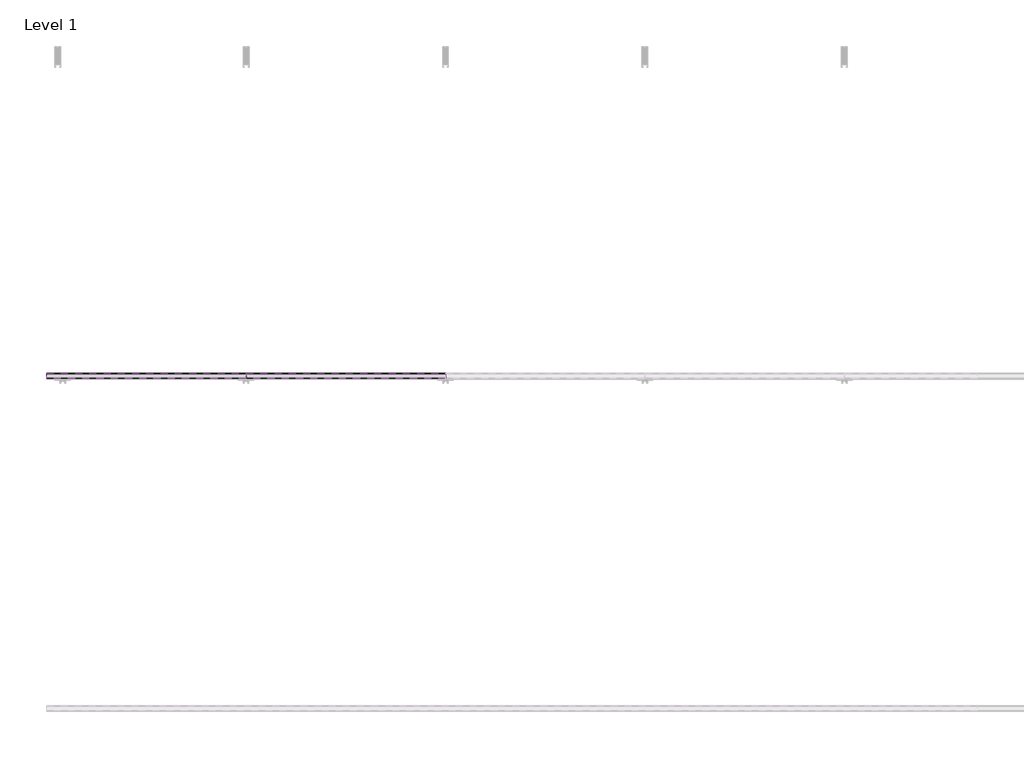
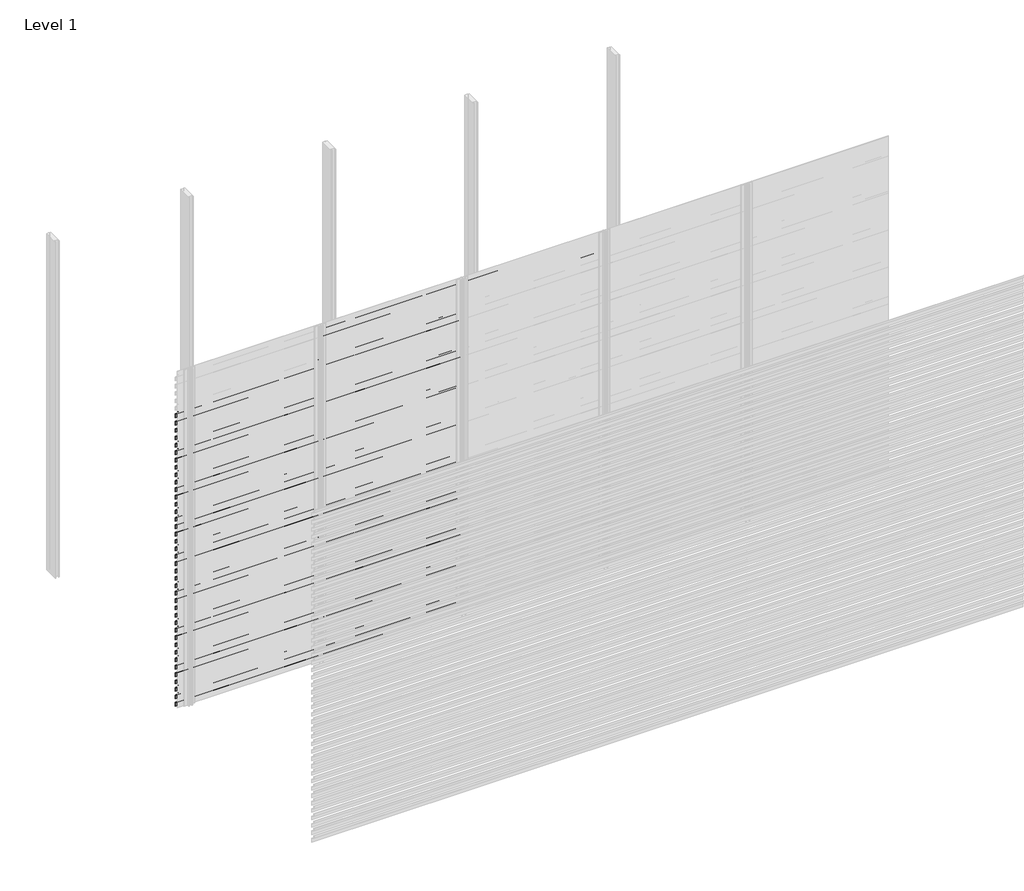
# One storey, part 4 of 33: 88 proxies.
"""IFC4 building model written with IfcOpenShell, lengths in millimetres."""

import ifcopenshell
import ifcopenshell.guid

model = None  # the IFC model being written
_history = None  # IfcOwnerHistory: only IFC2X3 demands one
_inside = {}  # id of a spatial element -> (the spatial element, [elements in it])
_under = {}  # id of a project, library or spatial element -> (it, [spatial elements below it])
_declared = {}  # id of a project -> (the project, [libraries it declares])
_typed = {}  # id of a type object -> (the type object, [elements of that type])
_made_of = {}  # id of a material, layer set ... -> (it, [elements and type objects made of it])


def new_model(schema):
    """Start an empty IFC model of exactly this schema.

    Asked for "IFC4X3", IfcOpenShell would pick the latest addendum, in which some entities
    have other attributes; the version numbers below select the first issue.
    IFC2X3 requires an IfcOwnerHistory on every rooted entity: one is made here for all.
    """
    global model, _history
    if schema == "IFC4X3":
        model = ifcopenshell.file(schema_version=(4, 3, 0, 0))
    else:
        model = ifcopenshell.file(schema=schema)
    _inside.clear()
    _under.clear()
    _declared.clear()
    _typed.clear()
    _made_of.clear()
    _history = None
    if model.schema == "IFC2X3":
        org = make("IfcOrganization", Name="unknown")
        user = make(
            "IfcPersonAndOrganization",
            ThePerson=make("IfcPerson", FamilyName="unknown"),
            TheOrganization=org,
        )
        app = make(
            "IfcApplication",
            ApplicationDeveloper=org,
            Version="unknown",
            ApplicationFullName="unknown",
            ApplicationIdentifier="unknown",
        )
        _history = make(
            "IfcOwnerHistory",
            OwningUser=user,
            OwningApplication=app,
            ChangeAction="ADDED",
            CreationDate=0,
        )
    return model


def make(cls, **values):
    """One entity of the class cls with the attributes given. An attribute that is None is left unset."""
    return model.create_entity(
        cls, **{name: value for name, value in values.items() if value is not None}
    )


def rooted(cls, **values):
    """An entity with a GlobalId (a new one), such as an element, a storey or a relation."""
    return make(cls, GlobalId=ifcopenshell.guid.new(), OwnerHistory=_history, **values)


def si_unit(unit_type, name, prefix=None):
    """IfcSIUnit, for example si_unit("LENGTHUNIT", "METRE", prefix="MILLI")."""
    return make("IfcSIUnit", UnitType=unit_type, Prefix=prefix, Name=name)


def assignment(units):
    """IfcUnitAssignment: the units of a project."""
    return None if units is None else make("IfcUnitAssignment", Units=units)


def point(xyz):
    """IfcCartesianPoint."""
    return None if xyz is None else make("IfcCartesianPoint", Coordinates=xyz)


def direction(xyz):
    """IfcDirection."""
    return None if xyz is None else make("IfcDirection", DirectionRatios=xyz)


def frame(location, z_axis=None, x_axis=None):
    """IfcAxis2Placement3D, a coordinate frame: its origin and axes. An axis left out is left unset."""
    return make(
        "IfcAxis2Placement3D",
        Location=point(location),
        Axis=direction(z_axis),
        RefDirection=direction(x_axis),
    )


def origin():
    """The frame at (0, 0, 0) with its axes left unset."""
    return frame((0.0, 0.0, 0.0))


def place(relative_to, where):
    """IfcLocalPlacement: puts the frame where relative to a parent placement (None: the world)."""
    return make(
        "IfcLocalPlacement", PlacementRelTo=relative_to, RelativePlacement=where
    )


def context(
    kind, dimensions, precision=None, world=None, true_north=None, identifier=None
):
    """IfcGeometricRepresentationContext, for example the 3D "Model" context."""
    return make(
        "IfcGeometricRepresentationContext",
        ContextIdentifier=identifier,
        ContextType=kind,
        CoordinateSpaceDimension=dimensions,
        Precision=precision,
        WorldCoordinateSystem=world,
        TrueNorth=true_north,
    )


def project(units=None, contexts=None):
    """IfcProject with its units and contexts."""
    return rooted(
        "IfcProject",
        Name="project",
        RepresentationContexts=contexts,
        UnitsInContext=assignment(units),
    )


def spatial(cls, under=None, at=None, **own):
    """A site, building, storey or space (cls), placed at a placement, below another one or the project."""
    s = rooted(cls, ObjectPlacement=at, **own)
    if under is not None:
        _under.setdefault(under.id(), (under, []))[1].append(s)
    return s


def polyline(points):
    """IfcPolyline through the points."""
    return make("IfcPolyline", Points=[point(p) for p in points])


def outline(outer, holes=None, kind="AREA"):
    """IfcArbitraryClosedProfileDef: a profile drawn as a closed curve; with holes, ...WithVoids."""
    if holes is None:
        return make("IfcArbitraryClosedProfileDef", ProfileType=kind, OuterCurve=outer)
    return make(
        "IfcArbitraryProfileDefWithVoids",
        ProfileType=kind,
        OuterCurve=outer,
        InnerCurves=holes,
    )


def extrude(swept, where, along, depth):
    """IfcExtrudedAreaSolid: the profile swept, set in the frame where, extruded along a direction by depth."""
    return make(
        "IfcExtrudedAreaSolid",
        SweptArea=swept,
        Position=where,
        ExtrudedDirection=direction(along),
        Depth=depth,
    )


def shape(context_of_items, identifier, shape_type, items):
    """IfcShapeRepresentation: the items that make up one representation, for example the "Body"."""
    return make(
        "IfcShapeRepresentation",
        ContextOfItems=context_of_items,
        RepresentationIdentifier=identifier,
        RepresentationType=shape_type,
        Items=items,
    )


def made_of(thing, what):
    """Note that an element or type object is made of a material, layer set ...; save() writes the relation."""
    if what is not None:
        _made_of.setdefault(what.id(), (what, []))[1].append(thing)
    return thing


def element(
    cls,
    number,
    at=None,
    inside=None,
    cuts=None,
    type_object=None,
    material=None,
    context=None,
    identifier="Body",
    shape_type=None,
    held_by="IfcProductDefinitionShape",
    body=None,
    shapes=None,
    **own,
):
    """One element of the class cls, such as IfcWall. Its Tag is "e" and its number.

    at: its placement. inside: the storey or other place that contains it. cuts: it is an
    opening in that element (IfcRelVoidsElement). A single representation is given by context,
    identifier, shape_type and body (its items); several are given by shapes. held_by: the class
    of the entity that holds the representations. save() writes the other relations.
    """
    e = rooted(cls, Tag="e%d" % number, ObjectPlacement=at, **own)
    if body is not None:
        shapes = [shape(context, identifier, shape_type, body)]
    if shapes is not None:
        e.Representation = make(held_by, Representations=shapes)
    if inside is not None:
        _inside.setdefault(inside.id(), (inside, []))[1].append(e)
    if cuts is not None:
        rooted(
            "IfcRelVoidsElement", RelatingBuildingElement=cuts, RelatedOpeningElement=e
        )
    if type_object is not None:
        _typed.setdefault(type_object.id(), (type_object, []))[1].append(e)
    return made_of(e, material)


def aggregate(whole, parts):
    """IfcRelAggregates: a whole, such as a stair, and the parts it consists of."""
    return rooted("IfcRelAggregates", RelatingObject=whole, RelatedObjects=parts)


def save(model, path):
    """Write the relations noted so far, then the file.

    IfcRelAggregates (storeys below a building ...), IfcRelContainedInSpatialStructure (elements
    in a storey), IfcRelDefinesByType, IfcRelAssociatesMaterial and IfcRelDeclares: one each for
    every whole, place, type object, material and project.
    """
    for whole, parts in _under.values():
        aggregate(whole, parts)
    for where, things in _inside.values():
        rooted(
            "IfcRelContainedInSpatialStructure",
            RelatedElements=things,
            RelatingStructure=where,
        )
    for kind, things in _typed.values():
        rooted("IfcRelDefinesByType", RelatedObjects=things, RelatingType=kind)
    for what, things in _made_of.values():
        rooted("IfcRelAssociatesMaterial", RelatedObjects=things, RelatingMaterial=what)
    for by, libraries in _declared.values():
        rooted("IfcRelDeclares", RelatingContext=by, RelatedDefinitions=libraries)
    model.write(path)


model = new_model("IFC4")

# Units and contexts
model_context = context("Model", 3, world=origin())
ifc_project = project(units=[si_unit("LENGTHUNIT", "METRE", prefix="MILLI")], contexts=[model_context])

# Site, building, storey
site = spatial("IfcSite", under=ifc_project)
building = spatial("IfcBuilding", under=site)
storey = spatial("IfcBuildingStorey", under=building, Name="Level 1", Elevation=0.0)

# Proxies
placement = place(None, origin())
element("IfcBuildingElementProxy", 1, Name="Wall Sweeps", at=placement, inside=storey, context=model_context, shape_type="SweptSolid", body=[
    extrude(outline(polyline([(-53967.0, 2600.0), (-53967.0, 2567.0), (-53968.25, 2567.7216933), (-53968.25, 2599.2872415), (-53998.0, 2620.0588647), (-53998.0, 2640.0), (-53996.75, 2640.0), (-53996.75, 2620.7716232), (-53967.0, 2600.0)])), frame((0.0, 0.0, 0.0), z_axis=(1.0, 0.0, 0.0), x_axis=(0.0, 1.0, 0.0)), (0.0, 0.0, 1.0), 1200.0),
])
element("IfcBuildingElementProxy", 2, Name="Wall Sweeps", at=placement, inside=storey, context=model_context, shape_type="SweptSolid", body=[
    extrude(outline(polyline([(-53967.0, 2534.0), (-53967.0, 2501.0), (-53968.25, 2501.7216933), (-53968.25, 2533.2872415), (-53998.0, 2554.0588647), (-53998.0, 2574.0), (-53996.75, 2574.0), (-53996.75, 2554.7716232), (-53967.0, 2534.0)])), frame((0.0, 0.0, 0.0), z_axis=(1.0, 0.0, 0.0), x_axis=(0.0, 1.0, 0.0)), (0.0, 0.0, 1.0), 1200.0),
])
element("IfcBuildingElementProxy", 3, Name="Wall Sweeps", at=placement, inside=storey, context=model_context, shape_type="SweptSolid", body=[
    extrude(outline(polyline([(-53967.0, 2468.0), (-53967.0, 2435.0), (-53968.25, 2435.7216933), (-53968.25, 2467.2872415), (-53998.0, 2488.0588647), (-53998.0, 2508.0), (-53996.75, 2508.0), (-53996.75, 2488.7716232), (-53967.0, 2468.0)])), frame((0.0, 0.0, 0.0), z_axis=(1.0, 0.0, 0.0), x_axis=(0.0, 1.0, 0.0)), (0.0, 0.0, 1.0), 1200.0),
])
element("IfcBuildingElementProxy", 4, Name="Wall Sweeps", at=placement, inside=storey, context=model_context, shape_type="SweptSolid", body=[
    extrude(outline(polyline([(-53967.0, 2402.0), (-53967.0, 2369.0), (-53968.25, 2369.7216933), (-53968.25, 2401.2872415), (-53998.0, 2422.0588647), (-53998.0, 2442.0), (-53996.75, 2442.0), (-53996.75, 2422.7716232), (-53967.0, 2402.0)])), frame((0.0, 0.0, 0.0), z_axis=(1.0, 0.0, 0.0), x_axis=(0.0, 1.0, 0.0)), (0.0, 0.0, 1.0), 1200.0),
])
element("IfcBuildingElementProxy", 5, Name="Wall Sweeps", at=placement, inside=storey, context=model_context, shape_type="SweptSolid", body=[
    extrude(outline(polyline([(-53967.0, 2336.0), (-53967.0, 2303.0), (-53968.25, 2303.7216933), (-53968.25, 2335.2872415), (-53998.0, 2356.0588647), (-53998.0, 2376.0), (-53996.75, 2376.0), (-53996.75, 2356.7716232), (-53967.0, 2336.0)])), frame((0.0, 0.0, 0.0), z_axis=(1.0, 0.0, 0.0), x_axis=(0.0, 1.0, 0.0)), (0.0, 0.0, 1.0), 1200.0),
])
element("IfcBuildingElementProxy", 6, Name="Wall Sweeps", at=placement, inside=storey, context=model_context, shape_type="SweptSolid", body=[
    extrude(outline(polyline([(-53967.0, 2270.0), (-53967.0, 2237.0), (-53968.25, 2237.7216933), (-53968.25, 2269.2872415), (-53998.0, 2290.0588647), (-53998.0, 2310.0), (-53996.75, 2310.0), (-53996.75, 2290.7716232), (-53967.0, 2270.0)])), frame((0.0, 0.0, 0.0), z_axis=(1.0, 0.0, 0.0), x_axis=(0.0, 1.0, 0.0)), (0.0, 0.0, 1.0), 1200.0),
])
element("IfcBuildingElementProxy", 7, Name="Wall Sweeps", at=placement, inside=storey, context=model_context, shape_type="SweptSolid", body=[
    extrude(outline(polyline([(-53967.0, 2204.0), (-53967.0, 2171.0), (-53968.25, 2171.7216933), (-53968.25, 2203.2872415), (-53998.0, 2224.0588647), (-53998.0, 2244.0), (-53996.75, 2244.0), (-53996.75, 2224.7716232), (-53967.0, 2204.0)])), frame((0.0, 0.0, 0.0), z_axis=(1.0, 0.0, 0.0), x_axis=(0.0, 1.0, 0.0)), (0.0, 0.0, 1.0), 1200.0),
])
element("IfcBuildingElementProxy", 8, Name="Wall Sweeps", at=placement, inside=storey, context=model_context, shape_type="SweptSolid", body=[
    extrude(outline(polyline([(-53967.0, 2138.0), (-53967.0, 2105.0), (-53968.25, 2105.7216933), (-53968.25, 2137.2872415), (-53998.0, 2158.0588647), (-53998.0, 2178.0), (-53996.75, 2178.0), (-53996.75, 2158.7716232), (-53967.0, 2138.0)])), frame((0.0, 0.0, 0.0), z_axis=(1.0, 0.0, 0.0), x_axis=(0.0, 1.0, 0.0)), (0.0, 0.0, 1.0), 1200.0),
])
element("IfcBuildingElementProxy", 9, Name="Wall Sweeps", at=placement, inside=storey, context=model_context, shape_type="SweptSolid", body=[
    extrude(outline(polyline([(-53967.0, 2072.0), (-53967.0, 2039.0), (-53968.25, 2039.7216933), (-53968.25, 2071.2872415), (-53998.0, 2092.0588647), (-53998.0, 2112.0), (-53996.75, 2112.0), (-53996.75, 2092.7716232), (-53967.0, 2072.0)])), frame((0.0, 0.0, 0.0), z_axis=(1.0, 0.0, 0.0), x_axis=(0.0, 1.0, 0.0)), (0.0, 0.0, 1.0), 1200.0),
])
element("IfcBuildingElementProxy", 10, Name="Wall Sweeps", at=placement, inside=storey, context=model_context, shape_type="SweptSolid", body=[
    extrude(outline(polyline([(-53967.0, 2006.0), (-53967.0, 1973.0), (-53968.25, 1973.7216933), (-53968.25, 2005.2872415), (-53998.0, 2026.0588647), (-53998.0, 2046.0), (-53996.75, 2046.0), (-53996.75, 2026.7716232), (-53967.0, 2006.0)])), frame((0.0, 0.0, 0.0), z_axis=(1.0, 0.0, 0.0), x_axis=(0.0, 1.0, 0.0)), (0.0, 0.0, 1.0), 1200.0),
])
element("IfcBuildingElementProxy", 11, Name="Wall Sweeps", at=placement, inside=storey, context=model_context, shape_type="SweptSolid", body=[
    extrude(outline(polyline([(-53967.0, 1940.0), (-53967.0, 1907.0), (-53968.25, 1907.7216933), (-53968.25, 1939.2872415), (-53998.0, 1960.0588647), (-53998.0, 1980.0), (-53996.75, 1980.0), (-53996.75, 1960.7716232), (-53967.0, 1940.0)])), frame((0.0, 0.0, 0.0), z_axis=(1.0, 0.0, 0.0), x_axis=(0.0, 1.0, 0.0)), (0.0, 0.0, 1.0), 1200.0),
])
element("IfcBuildingElementProxy", 12, Name="Wall Sweeps", at=placement, inside=storey, context=model_context, shape_type="SweptSolid", body=[
    extrude(outline(polyline([(-53967.0, 1874.0), (-53967.0, 1841.0), (-53968.25, 1841.7216933), (-53968.25, 1873.2872415), (-53998.0, 1894.0588647), (-53998.0, 1914.0), (-53996.75, 1914.0), (-53996.75, 1894.7716232), (-53967.0, 1874.0)])), frame((0.0, 0.0, 0.0), z_axis=(1.0, 0.0, 0.0), x_axis=(0.0, 1.0, 0.0)), (0.0, 0.0, 1.0), 1200.0),
])
element("IfcBuildingElementProxy", 13, Name="Wall Sweeps", at=placement, inside=storey, context=model_context, shape_type="SweptSolid", body=[
    extrude(outline(polyline([(-53967.0, 1808.0), (-53967.0, 1775.0), (-53968.25, 1775.7216933), (-53968.25, 1807.2872415), (-53998.0, 1828.0588647), (-53998.0, 1848.0), (-53996.75, 1848.0), (-53996.75, 1828.7716232), (-53967.0, 1808.0)])), frame((0.0, 0.0, 0.0), z_axis=(1.0, 0.0, 0.0), x_axis=(0.0, 1.0, 0.0)), (0.0, 0.0, 1.0), 1200.0),
])
element("IfcBuildingElementProxy", 14, Name="Wall Sweeps", at=placement, inside=storey, context=model_context, shape_type="SweptSolid", body=[
    extrude(outline(polyline([(-53967.0, 1742.0), (-53967.0, 1709.0), (-53968.25, 1709.7216933), (-53968.25, 1741.2872415), (-53998.0, 1762.0588647), (-53998.0, 1782.0), (-53996.75, 1782.0), (-53996.75, 1762.7716232), (-53967.0, 1742.0)])), frame((0.0, 0.0, 0.0), z_axis=(1.0, 0.0, 0.0), x_axis=(0.0, 1.0, 0.0)), (0.0, 0.0, 1.0), 1200.0),
])
element("IfcBuildingElementProxy", 15, Name="Wall Sweeps", at=placement, inside=storey, context=model_context, shape_type="SweptSolid", body=[
    extrude(outline(polyline([(-53967.0, 1676.0), (-53967.0, 1643.0), (-53968.25, 1643.7216933), (-53968.25, 1675.2872415), (-53998.0, 1696.0588647), (-53998.0, 1716.0), (-53996.75, 1716.0), (-53996.75, 1696.7716232), (-53967.0, 1676.0)])), frame((0.0, 0.0, 0.0), z_axis=(1.0, 0.0, 0.0), x_axis=(0.0, 1.0, 0.0)), (0.0, 0.0, 1.0), 1200.0),
])
element("IfcBuildingElementProxy", 16, Name="Wall Sweeps", at=placement, inside=storey, context=model_context, shape_type="SweptSolid", body=[
    extrude(outline(polyline([(-53967.0, 1610.0), (-53967.0, 1577.0), (-53968.25, 1577.7216933), (-53968.25, 1609.2872415), (-53998.0, 1630.0588647), (-53998.0, 1650.0), (-53996.75, 1650.0), (-53996.75, 1630.7716232), (-53967.0, 1610.0)])), frame((0.0, 0.0, 0.0), z_axis=(1.0, 0.0, 0.0), x_axis=(0.0, 1.0, 0.0)), (0.0, 0.0, 1.0), 1200.0),
])
element("IfcBuildingElementProxy", 17, Name="Wall Sweeps", at=placement, inside=storey, context=model_context, shape_type="SweptSolid", body=[
    extrude(outline(polyline([(-53967.0, 1544.0), (-53967.0, 1511.0), (-53968.25, 1511.7216933), (-53968.25, 1543.2872415), (-53998.0, 1564.0588647), (-53998.0, 1584.0), (-53996.75, 1584.0), (-53996.75, 1564.7716232), (-53967.0, 1544.0)])), frame((0.0, 0.0, 0.0), z_axis=(1.0, 0.0, 0.0), x_axis=(0.0, 1.0, 0.0)), (0.0, 0.0, 1.0), 1200.0),
])
element("IfcBuildingElementProxy", 18, Name="Wall Sweeps", at=placement, inside=storey, context=model_context, shape_type="SweptSolid", body=[
    extrude(outline(polyline([(-53967.0, 1478.0), (-53967.0, 1445.0), (-53968.25, 1445.7216933), (-53968.25, 1477.2872415), (-53998.0, 1498.0588647), (-53998.0, 1518.0), (-53996.75, 1518.0), (-53996.75, 1498.7716232), (-53967.0, 1478.0)])), frame((0.0, 0.0, 0.0), z_axis=(1.0, 0.0, 0.0), x_axis=(0.0, 1.0, 0.0)), (0.0, 0.0, 1.0), 1200.0),
])
element("IfcBuildingElementProxy", 19, Name="Wall Sweeps", at=placement, inside=storey, context=model_context, shape_type="SweptSolid", body=[
    extrude(outline(polyline([(-53967.0, 1412.0), (-53967.0, 1379.0), (-53968.25, 1379.7216933), (-53968.25, 1411.2872415), (-53998.0, 1432.0588647), (-53998.0, 1452.0), (-53996.75, 1452.0), (-53996.75, 1432.7716232), (-53967.0, 1412.0)])), frame((0.0, 0.0, 0.0), z_axis=(1.0, 0.0, 0.0), x_axis=(0.0, 1.0, 0.0)), (0.0, 0.0, 1.0), 1200.0),
])
element("IfcBuildingElementProxy", 20, Name="Wall Sweeps", at=placement, inside=storey, context=model_context, shape_type="SweptSolid", body=[
    extrude(outline(polyline([(-53967.0, 1346.0), (-53967.0, 1313.0), (-53968.25, 1313.7216933), (-53968.25, 1345.2872415), (-53998.0, 1366.0588647), (-53998.0, 1386.0), (-53996.75, 1386.0), (-53996.75, 1366.7716232), (-53967.0, 1346.0)])), frame((0.0, 0.0, 0.0), z_axis=(1.0, 0.0, 0.0), x_axis=(0.0, 1.0, 0.0)), (0.0, 0.0, 1.0), 1200.0),
])
element("IfcBuildingElementProxy", 21, Name="Wall Sweeps", at=placement, inside=storey, context=model_context, shape_type="SweptSolid", body=[
    extrude(outline(polyline([(-53967.0, 1280.0), (-53967.0, 1247.0), (-53968.25, 1247.7216933), (-53968.25, 1279.2872415), (-53998.0, 1300.0588647), (-53998.0, 1320.0), (-53996.75, 1320.0), (-53996.75, 1300.7716232), (-53967.0, 1280.0)])), frame((0.0, 0.0, 0.0), z_axis=(1.0, 0.0, 0.0), x_axis=(0.0, 1.0, 0.0)), (0.0, 0.0, 1.0), 1200.0),
])
element("IfcBuildingElementProxy", 22, Name="Wall Sweeps", at=placement, inside=storey, context=model_context, shape_type="SweptSolid", body=[
    extrude(outline(polyline([(-53967.0, 1214.0), (-53967.0, 1181.0), (-53968.25, 1181.7216933), (-53968.25, 1213.2872415), (-53998.0, 1234.0588647), (-53998.0, 1254.0), (-53996.75, 1254.0), (-53996.75, 1234.7716232), (-53967.0, 1214.0)])), frame((0.0, 0.0, 0.0), z_axis=(1.0, 0.0, 0.0), x_axis=(0.0, 1.0, 0.0)), (0.0, 0.0, 1.0), 1200.0),
])
element("IfcBuildingElementProxy", 23, Name="Wall Sweeps", at=placement, inside=storey, context=model_context, shape_type="SweptSolid", body=[
    extrude(outline(polyline([(-53967.0, 1148.0), (-53967.0, 1115.0), (-53968.25, 1115.7216933), (-53968.25, 1147.2872415), (-53998.0, 1168.0588647), (-53998.0, 1188.0), (-53996.75, 1188.0), (-53996.75, 1168.7716232), (-53967.0, 1148.0)])), frame((0.0, 0.0, 0.0), z_axis=(1.0, 0.0, 0.0), x_axis=(0.0, 1.0, 0.0)), (0.0, 0.0, 1.0), 1200.0),
])
element("IfcBuildingElementProxy", 24, Name="Wall Sweeps", at=placement, inside=storey, context=model_context, shape_type="SweptSolid", body=[
    extrude(outline(polyline([(-53967.0, 1082.0), (-53967.0, 1049.0), (-53968.25, 1049.7216933), (-53968.25, 1081.2872415), (-53998.0, 1102.0588647), (-53998.0, 1122.0), (-53996.75, 1122.0), (-53996.75, 1102.7716232), (-53967.0, 1082.0)])), frame((0.0, 0.0, 0.0), z_axis=(1.0, 0.0, 0.0), x_axis=(0.0, 1.0, 0.0)), (0.0, 0.0, 1.0), 1200.0),
])
element("IfcBuildingElementProxy", 25, Name="Wall Sweeps", at=placement, inside=storey, context=model_context, shape_type="SweptSolid", body=[
    extrude(outline(polyline([(-53967.0, 1016.0), (-53967.0, 983.0), (-53968.25, 983.7216933), (-53968.25, 1015.2872415), (-53998.0, 1036.0588647), (-53998.0, 1056.0), (-53996.75, 1056.0), (-53996.75, 1036.7716232), (-53967.0, 1016.0)])), frame((0.0, 0.0, 0.0), z_axis=(1.0, 0.0, 0.0), x_axis=(0.0, 1.0, 0.0)), (0.0, 0.0, 1.0), 1200.0),
])
element("IfcBuildingElementProxy", 26, Name="Wall Sweeps", at=placement, inside=storey, context=model_context, shape_type="SweptSolid", body=[
    extrude(outline(polyline([(-53967.0, 950.0), (-53967.0, 917.0), (-53968.25, 917.7216933), (-53968.25, 949.2872415), (-53998.0, 970.0588647), (-53998.0, 990.0), (-53996.75, 990.0), (-53996.75, 970.7716232), (-53967.0, 950.0)])), frame((0.0, 0.0, 0.0), z_axis=(1.0, 0.0, 0.0), x_axis=(0.0, 1.0, 0.0)), (0.0, 0.0, 1.0), 1200.0),
])
element("IfcBuildingElementProxy", 27, Name="Wall Sweeps", at=placement, inside=storey, context=model_context, shape_type="SweptSolid", body=[
    extrude(outline(polyline([(-53967.0, 884.0), (-53967.0, 851.0), (-53968.25, 851.7216933), (-53968.25, 883.2872415), (-53998.0, 904.0588647), (-53998.0, 924.0), (-53996.75, 924.0), (-53996.75, 904.7716232), (-53967.0, 884.0)])), frame((0.0, 0.0, 0.0), z_axis=(1.0, 0.0, 0.0), x_axis=(0.0, 1.0, 0.0)), (0.0, 0.0, 1.0), 1200.0),
])
element("IfcBuildingElementProxy", 28, Name="Wall Sweeps", at=placement, inside=storey, context=model_context, shape_type="SweptSolid", body=[
    extrude(outline(polyline([(-53967.0, 818.0), (-53967.0, 785.0), (-53968.25, 785.7216933), (-53968.25, 817.2872415), (-53998.0, 838.0588647), (-53998.0, 858.0), (-53996.75, 858.0), (-53996.75, 838.7716232), (-53967.0, 818.0)])), frame((0.0, 0.0, 0.0), z_axis=(1.0, 0.0, 0.0), x_axis=(0.0, 1.0, 0.0)), (0.0, 0.0, 1.0), 1200.0),
])
element("IfcBuildingElementProxy", 29, Name="Wall Sweeps", at=placement, inside=storey, context=model_context, shape_type="SweptSolid", body=[
    extrude(outline(polyline([(-53967.0, 752.0), (-53967.0, 719.0), (-53968.25, 719.7216933), (-53968.25, 751.2872415), (-53998.0, 772.0588647), (-53998.0, 792.0), (-53996.75, 792.0), (-53996.75, 772.7716232), (-53967.0, 752.0)])), frame((0.0, 0.0, 0.0), z_axis=(1.0, 0.0, 0.0), x_axis=(0.0, 1.0, 0.0)), (0.0, 0.0, 1.0), 1200.0),
])
element("IfcBuildingElementProxy", 30, Name="Wall Sweeps", at=placement, inside=storey, context=model_context, shape_type="SweptSolid", body=[
    extrude(outline(polyline([(-53967.0, 686.0), (-53967.0, 653.0), (-53968.25, 653.7216933), (-53968.25, 685.2872415), (-53998.0, 706.0588647), (-53998.0, 726.0), (-53996.75, 726.0), (-53996.75, 706.7716232), (-53967.0, 686.0)])), frame((0.0, 0.0, 0.0), z_axis=(1.0, 0.0, 0.0), x_axis=(0.0, 1.0, 0.0)), (0.0, 0.0, 1.0), 1200.0),
])
element("IfcBuildingElementProxy", 31, Name="Wall Sweeps", at=placement, inside=storey, context=model_context, shape_type="SweptSolid", body=[
    extrude(outline(polyline([(-53967.0, 620.0), (-53967.0, 587.0), (-53968.25, 587.7216933), (-53968.25, 619.2872415), (-53998.0, 640.0588647), (-53998.0, 660.0), (-53996.75, 660.0), (-53996.75, 640.7716232), (-53967.0, 620.0)])), frame((0.0, 0.0, 0.0), z_axis=(1.0, 0.0, 0.0), x_axis=(0.0, 1.0, 0.0)), (0.0, 0.0, 1.0), 1200.0),
])
element("IfcBuildingElementProxy", 32, Name="Wall Sweeps", at=placement, inside=storey, context=model_context, shape_type="SweptSolid", body=[
    extrude(outline(polyline([(-53967.0, 554.0), (-53967.0, 521.0), (-53968.25, 521.7216933), (-53968.25, 553.2872415), (-53998.0, 574.0588647), (-53998.0, 594.0), (-53996.75, 594.0), (-53996.75, 574.7716232), (-53967.0, 554.0)])), frame((0.0, 0.0, 0.0), z_axis=(1.0, 0.0, 0.0), x_axis=(0.0, 1.0, 0.0)), (0.0, 0.0, 1.0), 1200.0),
])
element("IfcBuildingElementProxy", 33, Name="Wall Sweeps", at=placement, inside=storey, context=model_context, shape_type="SweptSolid", body=[
    extrude(outline(polyline([(-53967.0, 488.0), (-53967.0, 455.0), (-53968.25, 455.7216933), (-53968.25, 487.2872415), (-53998.0, 508.0588647), (-53998.0, 528.0), (-53996.75, 528.0), (-53996.75, 508.7716232), (-53967.0, 488.0)])), frame((0.0, 0.0, 0.0), z_axis=(1.0, 0.0, 0.0), x_axis=(0.0, 1.0, 0.0)), (0.0, 0.0, 1.0), 1200.0),
])
element("IfcBuildingElementProxy", 34, Name="Wall Sweeps", at=placement, inside=storey, context=model_context, shape_type="SweptSolid", body=[
    extrude(outline(polyline([(-53967.0, 422.0), (-53967.0, 389.0), (-53968.25, 389.7216933), (-53968.25, 421.2872415), (-53998.0, 442.0588647), (-53998.0, 462.0), (-53996.75, 462.0), (-53996.75, 442.7716232), (-53967.0, 422.0)])), frame((0.0, 0.0, 0.0), z_axis=(1.0, 0.0, 0.0), x_axis=(0.0, 1.0, 0.0)), (0.0, 0.0, 1.0), 1200.0),
])
element("IfcBuildingElementProxy", 35, Name="Wall Sweeps", at=placement, inside=storey, context=model_context, shape_type="SweptSolid", body=[
    extrude(outline(polyline([(-53967.0, 356.0), (-53967.0, 323.0), (-53968.25, 323.7216933), (-53968.25, 355.2872415), (-53998.0, 376.0588647), (-53998.0, 396.0), (-53996.75, 396.0), (-53996.75, 376.7716232), (-53967.0, 356.0)])), frame((0.0, 0.0, 0.0), z_axis=(1.0, 0.0, 0.0), x_axis=(0.0, 1.0, 0.0)), (0.0, 0.0, 1.0), 1200.0),
])
element("IfcBuildingElementProxy", 36, Name="Wall Sweeps", at=placement, inside=storey, context=model_context, shape_type="SweptSolid", body=[
    extrude(outline(polyline([(-53967.0, 290.0), (-53967.0, 257.0), (-53968.25, 257.7216933), (-53968.25, 289.2872415), (-53998.0, 310.0588647), (-53998.0, 330.0), (-53996.75, 330.0), (-53996.75, 310.7716232), (-53967.0, 290.0)])), frame((0.0, 0.0, 0.0), z_axis=(1.0, 0.0, 0.0), x_axis=(0.0, 1.0, 0.0)), (0.0, 0.0, 1.0), 1200.0),
])
element("IfcBuildingElementProxy", 37, Name="Wall Sweeps", at=placement, inside=storey, context=model_context, shape_type="SweptSolid", body=[
    extrude(outline(polyline([(-53967.0, 224.0), (-53967.0, 191.0), (-53968.25, 191.7216933), (-53968.25, 223.2872415), (-53998.0, 244.0588647), (-53998.0, 264.0), (-53996.75, 264.0), (-53996.75, 244.7716232), (-53967.0, 224.0)])), frame((0.0, 0.0, 0.0), z_axis=(1.0, 0.0, 0.0), x_axis=(0.0, 1.0, 0.0)), (0.0, 0.0, 1.0), 1200.0),
])
element("IfcBuildingElementProxy", 38, Name="Wall Sweeps", at=placement, inside=storey, context=model_context, shape_type="SweptSolid", body=[
    extrude(outline(polyline([(-53967.0, 158.0), (-53967.0, 125.0), (-53968.25, 125.7216933), (-53968.25, 157.2872415), (-53998.0, 178.0588647), (-53998.0, 198.0), (-53996.75, 198.0), (-53996.75, 178.7716232), (-53967.0, 158.0)])), frame((0.0, 0.0, 0.0), z_axis=(1.0, 0.0, 0.0), x_axis=(0.0, 1.0, 0.0)), (0.0, 0.0, 1.0), 1200.0),
])
element("IfcBuildingElementProxy", 39, Name="Wall Sweeps", at=placement, inside=storey, context=model_context, shape_type="SweptSolid", body=[
    extrude(outline(polyline([(-53967.0, 92.0), (-53967.0, 59.0), (-53968.25, 59.7216933), (-53968.25, 91.2872415), (-53998.0, 112.0588647), (-53998.0, 132.0), (-53996.75, 132.0), (-53996.75, 112.7716232), (-53967.0, 92.0)])), frame((0.0, 0.0, 0.0), z_axis=(1.0, 0.0, 0.0), x_axis=(0.0, 1.0, 0.0)), (0.0, 0.0, 1.0), 1200.0),
])
element("IfcBuildingElementProxy", 40, Name="Wall Sweeps", at=placement, inside=storey, context=model_context, shape_type="SweptSolid", body=[
    extrude(outline(polyline([(-53967.0, 26.0), (-53967.0, -7.0), (-53968.25, -6.2783067), (-53968.25, 25.2872415), (-53998.0, 46.0588647), (-53998.0, 66.0), (-53996.75, 66.0), (-53996.75, 46.7716232), (-53967.0, 26.0)])), frame((0.0, 0.0, 0.0), z_axis=(1.0, 0.0, 0.0), x_axis=(0.0, 1.0, 0.0)), (0.0, 0.0, 1.0), 1200.0),
])
element("IfcBuildingElementProxy", 41, Name="Wall Sweeps", at=placement, inside=storey, context=model_context, shape_type="SweptSolid", body=[
    extrude(outline(polyline([(-53967.0, 2930.0), (-53967.0, 2897.0), (-53968.25, 2897.7216933), (-53968.25, 2929.2872415), (-53998.0, 2950.0588647), (-53998.0, 2970.0), (-53996.75, 2970.0), (-53996.75, 2950.7716232), (-53967.0, 2930.0)])), frame((1200.0, 0.0, 0.0), z_axis=(1.0, 0.0, 0.0), x_axis=(0.0, 1.0, 0.0)), (0.0, 0.0, 1.0), 1200.0),
])
element("IfcBuildingElementProxy", 42, Name="Wall Sweeps", at=placement, inside=storey, context=model_context, shape_type="SweptSolid", body=[
    extrude(outline(polyline([(-53967.0, 2864.0), (-53967.0, 2831.0), (-53968.25, 2831.7216933), (-53968.25, 2863.2872415), (-53998.0, 2884.0588647), (-53998.0, 2904.0), (-53996.75, 2904.0), (-53996.75, 2884.7716232), (-53967.0, 2864.0)])), frame((1200.0, 0.0, 0.0), z_axis=(1.0, 0.0, 0.0), x_axis=(0.0, 1.0, 0.0)), (0.0, 0.0, 1.0), 1200.0),
])
element("IfcBuildingElementProxy", 43, Name="Wall Sweeps", at=placement, inside=storey, context=model_context, shape_type="SweptSolid", body=[
    extrude(outline(polyline([(-53967.0, 2798.0), (-53967.0, 2765.0), (-53968.25, 2765.7216933), (-53968.25, 2797.2872415), (-53998.0, 2818.0588647), (-53998.0, 2838.0), (-53996.75, 2838.0), (-53996.75, 2818.7716232), (-53967.0, 2798.0)])), frame((1200.0, 0.0, 0.0), z_axis=(1.0, 0.0, 0.0), x_axis=(0.0, 1.0, 0.0)), (0.0, 0.0, 1.0), 1200.0),
])
element("IfcBuildingElementProxy", 44, Name="Wall Sweeps", at=placement, inside=storey, context=model_context, shape_type="SweptSolid", body=[
    extrude(outline(polyline([(-53967.0, 2732.0), (-53967.0, 2699.0), (-53968.25, 2699.7216933), (-53968.25, 2731.2872415), (-53998.0, 2752.0588647), (-53998.0, 2772.0), (-53996.75, 2772.0), (-53996.75, 2752.7716232), (-53967.0, 2732.0)])), frame((1200.0, 0.0, 0.0), z_axis=(1.0, 0.0, 0.0), x_axis=(0.0, 1.0, 0.0)), (0.0, 0.0, 1.0), 1200.0),
])
element("IfcBuildingElementProxy", 45, Name="Wall Sweeps", at=placement, inside=storey, context=model_context, shape_type="SweptSolid", body=[
    extrude(outline(polyline([(-53967.0, 2666.0), (-53967.0, 2633.0), (-53968.25, 2633.7216933), (-53968.25, 2665.2872415), (-53998.0, 2686.0588647), (-53998.0, 2706.0), (-53996.75, 2706.0), (-53996.75, 2686.7716232), (-53967.0, 2666.0)])), frame((1200.0, 0.0, 0.0), z_axis=(1.0, 0.0, 0.0), x_axis=(0.0, 1.0, 0.0)), (0.0, 0.0, 1.0), 1200.0),
])
element("IfcBuildingElementProxy", 46, Name="Wall Sweeps", at=placement, inside=storey, context=model_context, shape_type="SweptSolid", body=[
    extrude(outline(polyline([(-53967.0, 2600.0), (-53967.0, 2567.0), (-53968.25, 2567.7216933), (-53968.25, 2599.2872415), (-53998.0, 2620.0588647), (-53998.0, 2640.0), (-53996.75, 2640.0), (-53996.75, 2620.7716232), (-53967.0, 2600.0)])), frame((1200.0, 0.0, 0.0), z_axis=(1.0, 0.0, 0.0), x_axis=(0.0, 1.0, 0.0)), (0.0, 0.0, 1.0), 1200.0),
])
element("IfcBuildingElementProxy", 47, Name="Wall Sweeps", at=placement, inside=storey, context=model_context, shape_type="SweptSolid", body=[
    extrude(outline(polyline([(-53967.0, 2534.0), (-53967.0, 2501.0), (-53968.25, 2501.7216933), (-53968.25, 2533.2872415), (-53998.0, 2554.0588647), (-53998.0, 2574.0), (-53996.75, 2574.0), (-53996.75, 2554.7716232), (-53967.0, 2534.0)])), frame((1200.0, 0.0, 0.0), z_axis=(1.0, 0.0, 0.0), x_axis=(0.0, 1.0, 0.0)), (0.0, 0.0, 1.0), 1200.0),
])
element("IfcBuildingElementProxy", 48, Name="Wall Sweeps", at=placement, inside=storey, context=model_context, shape_type="SweptSolid", body=[
    extrude(outline(polyline([(-53967.0, 2468.0), (-53967.0, 2435.0), (-53968.25, 2435.7216933), (-53968.25, 2467.2872415), (-53998.0, 2488.0588647), (-53998.0, 2508.0), (-53996.75, 2508.0), (-53996.75, 2488.7716232), (-53967.0, 2468.0)])), frame((1200.0, 0.0, 0.0), z_axis=(1.0, 0.0, 0.0), x_axis=(0.0, 1.0, 0.0)), (0.0, 0.0, 1.0), 1200.0),
])
element("IfcBuildingElementProxy", 49, Name="Wall Sweeps", at=placement, inside=storey, context=model_context, shape_type="SweptSolid", body=[
    extrude(outline(polyline([(-53967.0, 2402.0), (-53967.0, 2369.0), (-53968.25, 2369.7216933), (-53968.25, 2401.2872415), (-53998.0, 2422.0588647), (-53998.0, 2442.0), (-53996.75, 2442.0), (-53996.75, 2422.7716232), (-53967.0, 2402.0)])), frame((1200.0, 0.0, 0.0), z_axis=(1.0, 0.0, 0.0), x_axis=(0.0, 1.0, 0.0)), (0.0, 0.0, 1.0), 1200.0),
])
element("IfcBuildingElementProxy", 50, Name="Wall Sweeps", at=placement, inside=storey, context=model_context, shape_type="SweptSolid", body=[
    extrude(outline(polyline([(-53967.0, 2336.0), (-53967.0, 2303.0), (-53968.25, 2303.7216933), (-53968.25, 2335.2872415), (-53998.0, 2356.0588647), (-53998.0, 2376.0), (-53996.75, 2376.0), (-53996.75, 2356.7716232), (-53967.0, 2336.0)])), frame((1200.0, 0.0, 0.0), z_axis=(1.0, 0.0, 0.0), x_axis=(0.0, 1.0, 0.0)), (0.0, 0.0, 1.0), 1200.0),
])
element("IfcBuildingElementProxy", 51, Name="Wall Sweeps", at=placement, inside=storey, context=model_context, shape_type="SweptSolid", body=[
    extrude(outline(polyline([(-53967.0, 2270.0), (-53967.0, 2237.0), (-53968.25, 2237.7216933), (-53968.25, 2269.2872415), (-53998.0, 2290.0588647), (-53998.0, 2310.0), (-53996.75, 2310.0), (-53996.75, 2290.7716232), (-53967.0, 2270.0)])), frame((1200.0, 0.0, 0.0), z_axis=(1.0, 0.0, 0.0), x_axis=(0.0, 1.0, 0.0)), (0.0, 0.0, 1.0), 1200.0),
])
element("IfcBuildingElementProxy", 52, Name="Wall Sweeps", at=placement, inside=storey, context=model_context, shape_type="SweptSolid", body=[
    extrude(outline(polyline([(-53967.0, 2204.0), (-53967.0, 2171.0), (-53968.25, 2171.7216933), (-53968.25, 2203.2872415), (-53998.0, 2224.0588647), (-53998.0, 2244.0), (-53996.75, 2244.0), (-53996.75, 2224.7716232), (-53967.0, 2204.0)])), frame((1200.0, 0.0, 0.0), z_axis=(1.0, 0.0, 0.0), x_axis=(0.0, 1.0, 0.0)), (0.0, 0.0, 1.0), 1200.0),
])
element("IfcBuildingElementProxy", 53, Name="Wall Sweeps", at=placement, inside=storey, context=model_context, shape_type="SweptSolid", body=[
    extrude(outline(polyline([(-53967.0, 2138.0), (-53967.0, 2105.0), (-53968.25, 2105.7216933), (-53968.25, 2137.2872415), (-53998.0, 2158.0588647), (-53998.0, 2178.0), (-53996.75, 2178.0), (-53996.75, 2158.7716232), (-53967.0, 2138.0)])), frame((1200.0, 0.0, 0.0), z_axis=(1.0, 0.0, 0.0), x_axis=(0.0, 1.0, 0.0)), (0.0, 0.0, 1.0), 1200.0),
])
element("IfcBuildingElementProxy", 54, Name="Wall Sweeps", at=placement, inside=storey, context=model_context, shape_type="SweptSolid", body=[
    extrude(outline(polyline([(-53967.0, 2072.0), (-53967.0, 2039.0), (-53968.25, 2039.7216933), (-53968.25, 2071.2872415), (-53998.0, 2092.0588647), (-53998.0, 2112.0), (-53996.75, 2112.0), (-53996.75, 2092.7716232), (-53967.0, 2072.0)])), frame((1200.0, 0.0, 0.0), z_axis=(1.0, 0.0, 0.0), x_axis=(0.0, 1.0, 0.0)), (0.0, 0.0, 1.0), 1200.0),
])
element("IfcBuildingElementProxy", 55, Name="Wall Sweeps", at=placement, inside=storey, context=model_context, shape_type="SweptSolid", body=[
    extrude(outline(polyline([(-53967.0, 2006.0), (-53967.0, 1973.0), (-53968.25, 1973.7216933), (-53968.25, 2005.2872415), (-53998.0, 2026.0588647), (-53998.0, 2046.0), (-53996.75, 2046.0), (-53996.75, 2026.7716232), (-53967.0, 2006.0)])), frame((1200.0, 0.0, 0.0), z_axis=(1.0, 0.0, 0.0), x_axis=(0.0, 1.0, 0.0)), (0.0, 0.0, 1.0), 1200.0),
])
element("IfcBuildingElementProxy", 56, Name="Wall Sweeps", at=placement, inside=storey, context=model_context, shape_type="SweptSolid", body=[
    extrude(outline(polyline([(-53967.0, 1940.0), (-53967.0, 1907.0), (-53968.25, 1907.7216933), (-53968.25, 1939.2872415), (-53998.0, 1960.0588647), (-53998.0, 1980.0), (-53996.75, 1980.0), (-53996.75, 1960.7716232), (-53967.0, 1940.0)])), frame((1200.0, 0.0, 0.0), z_axis=(1.0, 0.0, 0.0), x_axis=(0.0, 1.0, 0.0)), (0.0, 0.0, 1.0), 1200.0),
])
element("IfcBuildingElementProxy", 57, Name="Wall Sweeps", at=placement, inside=storey, context=model_context, shape_type="SweptSolid", body=[
    extrude(outline(polyline([(-53967.0, 1874.0), (-53967.0, 1841.0), (-53968.25, 1841.7216933), (-53968.25, 1873.2872415), (-53998.0, 1894.0588647), (-53998.0, 1914.0), (-53996.75, 1914.0), (-53996.75, 1894.7716232), (-53967.0, 1874.0)])), frame((1200.0, 0.0, 0.0), z_axis=(1.0, 0.0, 0.0), x_axis=(0.0, 1.0, 0.0)), (0.0, 0.0, 1.0), 1200.0),
])
element("IfcBuildingElementProxy", 58, Name="Wall Sweeps", at=placement, inside=storey, context=model_context, shape_type="SweptSolid", body=[
    extrude(outline(polyline([(-53967.0, 1808.0), (-53967.0, 1775.0), (-53968.25, 1775.7216933), (-53968.25, 1807.2872415), (-53998.0, 1828.0588647), (-53998.0, 1848.0), (-53996.75, 1848.0), (-53996.75, 1828.7716232), (-53967.0, 1808.0)])), frame((1200.0, 0.0, 0.0), z_axis=(1.0, 0.0, 0.0), x_axis=(0.0, 1.0, 0.0)), (0.0, 0.0, 1.0), 1200.0),
])
element("IfcBuildingElementProxy", 59, Name="Wall Sweeps", at=placement, inside=storey, context=model_context, shape_type="SweptSolid", body=[
    extrude(outline(polyline([(-53967.0, 1742.0), (-53967.0, 1709.0), (-53968.25, 1709.7216933), (-53968.25, 1741.2872415), (-53998.0, 1762.0588647), (-53998.0, 1782.0), (-53996.75, 1782.0), (-53996.75, 1762.7716232), (-53967.0, 1742.0)])), frame((1200.0, 0.0, 0.0), z_axis=(1.0, 0.0, 0.0), x_axis=(0.0, 1.0, 0.0)), (0.0, 0.0, 1.0), 1200.0),
])
element("IfcBuildingElementProxy", 60, Name="Wall Sweeps", at=placement, inside=storey, context=model_context, shape_type="SweptSolid", body=[
    extrude(outline(polyline([(-53967.0, 1676.0), (-53967.0, 1643.0), (-53968.25, 1643.7216933), (-53968.25, 1675.2872415), (-53998.0, 1696.0588647), (-53998.0, 1716.0), (-53996.75, 1716.0), (-53996.75, 1696.7716232), (-53967.0, 1676.0)])), frame((1200.0, 0.0, 0.0), z_axis=(1.0, 0.0, 0.0), x_axis=(0.0, 1.0, 0.0)), (0.0, 0.0, 1.0), 1200.0),
])
element("IfcBuildingElementProxy", 61, Name="Wall Sweeps", at=placement, inside=storey, context=model_context, shape_type="SweptSolid", body=[
    extrude(outline(polyline([(-53967.0, 1610.0), (-53967.0, 1577.0), (-53968.25, 1577.7216933), (-53968.25, 1609.2872415), (-53998.0, 1630.0588647), (-53998.0, 1650.0), (-53996.75, 1650.0), (-53996.75, 1630.7716232), (-53967.0, 1610.0)])), frame((1200.0, 0.0, 0.0), z_axis=(1.0, 0.0, 0.0), x_axis=(0.0, 1.0, 0.0)), (0.0, 0.0, 1.0), 1200.0),
])
element("IfcBuildingElementProxy", 62, Name="Wall Sweeps", at=placement, inside=storey, context=model_context, shape_type="SweptSolid", body=[
    extrude(outline(polyline([(-53967.0, 1544.0), (-53967.0, 1511.0), (-53968.25, 1511.7216933), (-53968.25, 1543.2872415), (-53998.0, 1564.0588647), (-53998.0, 1584.0), (-53996.75, 1584.0), (-53996.75, 1564.7716232), (-53967.0, 1544.0)])), frame((1200.0, 0.0, 0.0), z_axis=(1.0, 0.0, 0.0), x_axis=(0.0, 1.0, 0.0)), (0.0, 0.0, 1.0), 1200.0),
])
element("IfcBuildingElementProxy", 63, Name="Wall Sweeps", at=placement, inside=storey, context=model_context, shape_type="SweptSolid", body=[
    extrude(outline(polyline([(-53967.0, 1478.0), (-53967.0, 1445.0), (-53968.25, 1445.7216933), (-53968.25, 1477.2872415), (-53998.0, 1498.0588647), (-53998.0, 1518.0), (-53996.75, 1518.0), (-53996.75, 1498.7716232), (-53967.0, 1478.0)])), frame((1200.0, 0.0, 0.0), z_axis=(1.0, 0.0, 0.0), x_axis=(0.0, 1.0, 0.0)), (0.0, 0.0, 1.0), 1200.0),
])
element("IfcBuildingElementProxy", 64, Name="Wall Sweeps", at=placement, inside=storey, context=model_context, shape_type="SweptSolid", body=[
    extrude(outline(polyline([(-53967.0, 1412.0), (-53967.0, 1379.0), (-53968.25, 1379.7216933), (-53968.25, 1411.2872415), (-53998.0, 1432.0588647), (-53998.0, 1452.0), (-53996.75, 1452.0), (-53996.75, 1432.7716232), (-53967.0, 1412.0)])), frame((1200.0, 0.0, 0.0), z_axis=(1.0, 0.0, 0.0), x_axis=(0.0, 1.0, 0.0)), (0.0, 0.0, 1.0), 1200.0),
])
element("IfcBuildingElementProxy", 65, Name="Wall Sweeps", at=placement, inside=storey, context=model_context, shape_type="SweptSolid", body=[
    extrude(outline(polyline([(-53967.0, 1346.0), (-53967.0, 1313.0), (-53968.25, 1313.7216933), (-53968.25, 1345.2872415), (-53998.0, 1366.0588647), (-53998.0, 1386.0), (-53996.75, 1386.0), (-53996.75, 1366.7716232), (-53967.0, 1346.0)])), frame((1200.0, 0.0, 0.0), z_axis=(1.0, 0.0, 0.0), x_axis=(0.0, 1.0, 0.0)), (0.0, 0.0, 1.0), 1200.0),
])
element("IfcBuildingElementProxy", 66, Name="Wall Sweeps", at=placement, inside=storey, context=model_context, shape_type="SweptSolid", body=[
    extrude(outline(polyline([(-53967.0, 1280.0), (-53967.0, 1247.0), (-53968.25, 1247.7216933), (-53968.25, 1279.2872415), (-53998.0, 1300.0588647), (-53998.0, 1320.0), (-53996.75, 1320.0), (-53996.75, 1300.7716232), (-53967.0, 1280.0)])), frame((1200.0, 0.0, 0.0), z_axis=(1.0, 0.0, 0.0), x_axis=(0.0, 1.0, 0.0)), (0.0, 0.0, 1.0), 1200.0),
])
element("IfcBuildingElementProxy", 67, Name="Wall Sweeps", at=placement, inside=storey, context=model_context, shape_type="SweptSolid", body=[
    extrude(outline(polyline([(-53967.0, 1214.0), (-53967.0, 1181.0), (-53968.25, 1181.7216933), (-53968.25, 1213.2872415), (-53998.0, 1234.0588647), (-53998.0, 1254.0), (-53996.75, 1254.0), (-53996.75, 1234.7716232), (-53967.0, 1214.0)])), frame((1200.0, 0.0, 0.0), z_axis=(1.0, 0.0, 0.0), x_axis=(0.0, 1.0, 0.0)), (0.0, 0.0, 1.0), 1200.0),
])
element("IfcBuildingElementProxy", 68, Name="Wall Sweeps", at=placement, inside=storey, context=model_context, shape_type="SweptSolid", body=[
    extrude(outline(polyline([(-53967.0, 1148.0), (-53967.0, 1115.0), (-53968.25, 1115.7216933), (-53968.25, 1147.2872415), (-53998.0, 1168.0588647), (-53998.0, 1188.0), (-53996.75, 1188.0), (-53996.75, 1168.7716232), (-53967.0, 1148.0)])), frame((1200.0, 0.0, 0.0), z_axis=(1.0, 0.0, 0.0), x_axis=(0.0, 1.0, 0.0)), (0.0, 0.0, 1.0), 1200.0),
])
element("IfcBuildingElementProxy", 69, Name="Wall Sweeps", at=placement, inside=storey, context=model_context, shape_type="SweptSolid", body=[
    extrude(outline(polyline([(-53967.0, 1082.0), (-53967.0, 1049.0), (-53968.25, 1049.7216933), (-53968.25, 1081.2872415), (-53998.0, 1102.0588647), (-53998.0, 1122.0), (-53996.75, 1122.0), (-53996.75, 1102.7716232), (-53967.0, 1082.0)])), frame((1200.0, 0.0, 0.0), z_axis=(1.0, 0.0, 0.0), x_axis=(0.0, 1.0, 0.0)), (0.0, 0.0, 1.0), 1200.0),
])
element("IfcBuildingElementProxy", 70, Name="Wall Sweeps", at=placement, inside=storey, context=model_context, shape_type="SweptSolid", body=[
    extrude(outline(polyline([(-53967.0, 1016.0), (-53967.0, 983.0), (-53968.25, 983.7216933), (-53968.25, 1015.2872415), (-53998.0, 1036.0588647), (-53998.0, 1056.0), (-53996.75, 1056.0), (-53996.75, 1036.7716232), (-53967.0, 1016.0)])), frame((1200.0, 0.0, 0.0), z_axis=(1.0, 0.0, 0.0), x_axis=(0.0, 1.0, 0.0)), (0.0, 0.0, 1.0), 1200.0),
])
element("IfcBuildingElementProxy", 71, Name="Wall Sweeps", at=placement, inside=storey, context=model_context, shape_type="SweptSolid", body=[
    extrude(outline(polyline([(-53967.0, 950.0), (-53967.0, 917.0), (-53968.25, 917.7216933), (-53968.25, 949.2872415), (-53998.0, 970.0588647), (-53998.0, 990.0), (-53996.75, 990.0), (-53996.75, 970.7716232), (-53967.0, 950.0)])), frame((1200.0, 0.0, 0.0), z_axis=(1.0, 0.0, 0.0), x_axis=(0.0, 1.0, 0.0)), (0.0, 0.0, 1.0), 1200.0),
])
element("IfcBuildingElementProxy", 72, Name="Wall Sweeps", at=placement, inside=storey, context=model_context, shape_type="SweptSolid", body=[
    extrude(outline(polyline([(-53967.0, 884.0), (-53967.0, 851.0), (-53968.25, 851.7216933), (-53968.25, 883.2872415), (-53998.0, 904.0588647), (-53998.0, 924.0), (-53996.75, 924.0), (-53996.75, 904.7716232), (-53967.0, 884.0)])), frame((1200.0, 0.0, 0.0), z_axis=(1.0, 0.0, 0.0), x_axis=(0.0, 1.0, 0.0)), (0.0, 0.0, 1.0), 1200.0),
])
element("IfcBuildingElementProxy", 73, Name="Wall Sweeps", at=placement, inside=storey, context=model_context, shape_type="SweptSolid", body=[
    extrude(outline(polyline([(-53967.0, 818.0), (-53967.0, 785.0), (-53968.25, 785.7216933), (-53968.25, 817.2872415), (-53998.0, 838.0588647), (-53998.0, 858.0), (-53996.75, 858.0), (-53996.75, 838.7716232), (-53967.0, 818.0)])), frame((1200.0, 0.0, 0.0), z_axis=(1.0, 0.0, 0.0), x_axis=(0.0, 1.0, 0.0)), (0.0, 0.0, 1.0), 1200.0),
])
element("IfcBuildingElementProxy", 74, Name="Wall Sweeps", at=placement, inside=storey, context=model_context, shape_type="SweptSolid", body=[
    extrude(outline(polyline([(-53967.0, 752.0), (-53967.0, 719.0), (-53968.25, 719.7216933), (-53968.25, 751.2872415), (-53998.0, 772.0588647), (-53998.0, 792.0), (-53996.75, 792.0), (-53996.75, 772.7716232), (-53967.0, 752.0)])), frame((1200.0, 0.0, 0.0), z_axis=(1.0, 0.0, 0.0), x_axis=(0.0, 1.0, 0.0)), (0.0, 0.0, 1.0), 1200.0),
])
element("IfcBuildingElementProxy", 75, Name="Wall Sweeps", at=placement, inside=storey, context=model_context, shape_type="SweptSolid", body=[
    extrude(outline(polyline([(-53967.0, 686.0), (-53967.0, 653.0), (-53968.25, 653.7216933), (-53968.25, 685.2872415), (-53998.0, 706.0588647), (-53998.0, 726.0), (-53996.75, 726.0), (-53996.75, 706.7716232), (-53967.0, 686.0)])), frame((1200.0, 0.0, 0.0), z_axis=(1.0, 0.0, 0.0), x_axis=(0.0, 1.0, 0.0)), (0.0, 0.0, 1.0), 1200.0),
])
element("IfcBuildingElementProxy", 76, Name="Wall Sweeps", at=placement, inside=storey, context=model_context, shape_type="SweptSolid", body=[
    extrude(outline(polyline([(-53967.0, 620.0), (-53967.0, 587.0), (-53968.25, 587.7216933), (-53968.25, 619.2872415), (-53998.0, 640.0588647), (-53998.0, 660.0), (-53996.75, 660.0), (-53996.75, 640.7716232), (-53967.0, 620.0)])), frame((1200.0, 0.0, 0.0), z_axis=(1.0, 0.0, 0.0), x_axis=(0.0, 1.0, 0.0)), (0.0, 0.0, 1.0), 1200.0),
])
element("IfcBuildingElementProxy", 77, Name="Wall Sweeps", at=placement, inside=storey, context=model_context, shape_type="SweptSolid", body=[
    extrude(outline(polyline([(-53967.0, 554.0), (-53967.0, 521.0), (-53968.25, 521.7216933), (-53968.25, 553.2872415), (-53998.0, 574.0588647), (-53998.0, 594.0), (-53996.75, 594.0), (-53996.75, 574.7716232), (-53967.0, 554.0)])), frame((1200.0, 0.0, 0.0), z_axis=(1.0, 0.0, 0.0), x_axis=(0.0, 1.0, 0.0)), (0.0, 0.0, 1.0), 1200.0),
])
element("IfcBuildingElementProxy", 78, Name="Wall Sweeps", at=placement, inside=storey, context=model_context, shape_type="SweptSolid", body=[
    extrude(outline(polyline([(-53967.0, 488.0), (-53967.0, 455.0), (-53968.25, 455.7216933), (-53968.25, 487.2872415), (-53998.0, 508.0588647), (-53998.0, 528.0), (-53996.75, 528.0), (-53996.75, 508.7716232), (-53967.0, 488.0)])), frame((1200.0, 0.0, 0.0), z_axis=(1.0, 0.0, 0.0), x_axis=(0.0, 1.0, 0.0)), (0.0, 0.0, 1.0), 1200.0),
])
element("IfcBuildingElementProxy", 79, Name="Wall Sweeps", at=placement, inside=storey, context=model_context, shape_type="SweptSolid", body=[
    extrude(outline(polyline([(-53967.0, 422.0), (-53967.0, 389.0), (-53968.25, 389.7216933), (-53968.25, 421.2872415), (-53998.0, 442.0588647), (-53998.0, 462.0), (-53996.75, 462.0), (-53996.75, 442.7716232), (-53967.0, 422.0)])), frame((1200.0, 0.0, 0.0), z_axis=(1.0, 0.0, 0.0), x_axis=(0.0, 1.0, 0.0)), (0.0, 0.0, 1.0), 1200.0),
])
element("IfcBuildingElementProxy", 80, Name="Wall Sweeps", at=placement, inside=storey, context=model_context, shape_type="SweptSolid", body=[
    extrude(outline(polyline([(-53967.0, 356.0), (-53967.0, 323.0), (-53968.25, 323.7216933), (-53968.25, 355.2872415), (-53998.0, 376.0588647), (-53998.0, 396.0), (-53996.75, 396.0), (-53996.75, 376.7716232), (-53967.0, 356.0)])), frame((1200.0, 0.0, 0.0), z_axis=(1.0, 0.0, 0.0), x_axis=(0.0, 1.0, 0.0)), (0.0, 0.0, 1.0), 1200.0),
])
element("IfcBuildingElementProxy", 81, Name="Wall Sweeps", at=placement, inside=storey, context=model_context, shape_type="SweptSolid", body=[
    extrude(outline(polyline([(-53967.0, 290.0), (-53967.0, 257.0), (-53968.25, 257.7216933), (-53968.25, 289.2872415), (-53998.0, 310.0588647), (-53998.0, 330.0), (-53996.75, 330.0), (-53996.75, 310.7716232), (-53967.0, 290.0)])), frame((1200.0, 0.0, 0.0), z_axis=(1.0, 0.0, 0.0), x_axis=(0.0, 1.0, 0.0)), (0.0, 0.0, 1.0), 1200.0),
])
element("IfcBuildingElementProxy", 82, Name="Wall Sweeps", at=placement, inside=storey, context=model_context, shape_type="SweptSolid", body=[
    extrude(outline(polyline([(-53967.0, 224.0), (-53967.0, 191.0), (-53968.25, 191.7216933), (-53968.25, 223.2872415), (-53998.0, 244.0588647), (-53998.0, 264.0), (-53996.75, 264.0), (-53996.75, 244.7716232), (-53967.0, 224.0)])), frame((1200.0, 0.0, 0.0), z_axis=(1.0, 0.0, 0.0), x_axis=(0.0, 1.0, 0.0)), (0.0, 0.0, 1.0), 1200.0),
])
element("IfcBuildingElementProxy", 83, Name="Wall Sweeps", at=placement, inside=storey, context=model_context, shape_type="SweptSolid", body=[
    extrude(outline(polyline([(-53967.0, 158.0), (-53967.0, 125.0), (-53968.25, 125.7216933), (-53968.25, 157.2872415), (-53998.0, 178.0588647), (-53998.0, 198.0), (-53996.75, 198.0), (-53996.75, 178.7716232), (-53967.0, 158.0)])), frame((1200.0, 0.0, 0.0), z_axis=(1.0, 0.0, 0.0), x_axis=(0.0, 1.0, 0.0)), (0.0, 0.0, 1.0), 1200.0),
])
element("IfcBuildingElementProxy", 84, Name="Wall Sweeps", at=placement, inside=storey, context=model_context, shape_type="SweptSolid", body=[
    extrude(outline(polyline([(-53967.0, 92.0), (-53967.0, 59.0), (-53968.25, 59.7216933), (-53968.25, 91.2872415), (-53998.0, 112.0588647), (-53998.0, 132.0), (-53996.75, 132.0), (-53996.75, 112.7716232), (-53967.0, 92.0)])), frame((1200.0, 0.0, 0.0), z_axis=(1.0, 0.0, 0.0), x_axis=(0.0, 1.0, 0.0)), (0.0, 0.0, 1.0), 1200.0),
])
element("IfcBuildingElementProxy", 85, Name="Wall Sweeps", at=placement, inside=storey, context=model_context, shape_type="SweptSolid", body=[
    extrude(outline(polyline([(-53967.0, 26.0), (-53967.0, -7.0), (-53968.25, -6.2783067), (-53968.25, 25.2872415), (-53998.0, 46.0588647), (-53998.0, 66.0), (-53996.75, 66.0), (-53996.75, 46.7716232), (-53967.0, 26.0)])), frame((1200.0, 0.0, 0.0), z_axis=(1.0, 0.0, 0.0), x_axis=(0.0, 1.0, 0.0)), (0.0, 0.0, 1.0), 1200.0),
])
element("IfcBuildingElementProxy", 86, Name="Wall Sweeps", at=placement, inside=storey, context=model_context, shape_type="SweptSolid", body=[
    extrude(outline(polyline([(-53967.0, 2930.0), (-53967.0, 2897.0), (-53968.25, 2897.7216933), (-53968.25, 2929.2872415), (-53998.0, 2950.0588647), (-53998.0, 2970.0), (-53996.75, 2970.0), (-53996.75, 2950.7716232), (-53967.0, 2930.0)])), frame((2400.0, 0.0, 0.0), z_axis=(1.0, 0.0, 0.0), x_axis=(0.0, 1.0, 0.0)), (0.0, 0.0, 1.0), 1200.0),
])
element("IfcBuildingElementProxy", 87, Name="Wall Sweeps", at=placement, inside=storey, context=model_context, shape_type="SweptSolid", body=[
    extrude(outline(polyline([(-53967.0, 2864.0), (-53967.0, 2831.0), (-53968.25, 2831.7216933), (-53968.25, 2863.2872415), (-53998.0, 2884.0588647), (-53998.0, 2904.0), (-53996.75, 2904.0), (-53996.75, 2884.7716232), (-53967.0, 2864.0)])), frame((2400.0, 0.0, 0.0), z_axis=(1.0, 0.0, 0.0), x_axis=(0.0, 1.0, 0.0)), (0.0, 0.0, 1.0), 1200.0),
])
element("IfcBuildingElementProxy", 88, Name="Wall Sweeps", at=placement, inside=storey, context=model_context, shape_type="SweptSolid", body=[
    extrude(outline(polyline([(-53967.0, 2798.0), (-53967.0, 2765.0), (-53968.25, 2765.7216933), (-53968.25, 2797.2872415), (-53998.0, 2818.0588647), (-53998.0, 2838.0), (-53996.75, 2838.0), (-53996.75, 2818.7716232), (-53967.0, 2798.0)])), frame((2400.0, 0.0, 0.0), z_axis=(1.0, 0.0, 0.0), x_axis=(0.0, 1.0, 0.0)), (0.0, 0.0, 1.0), 1200.0),
])

save(model, "model.ifc")
